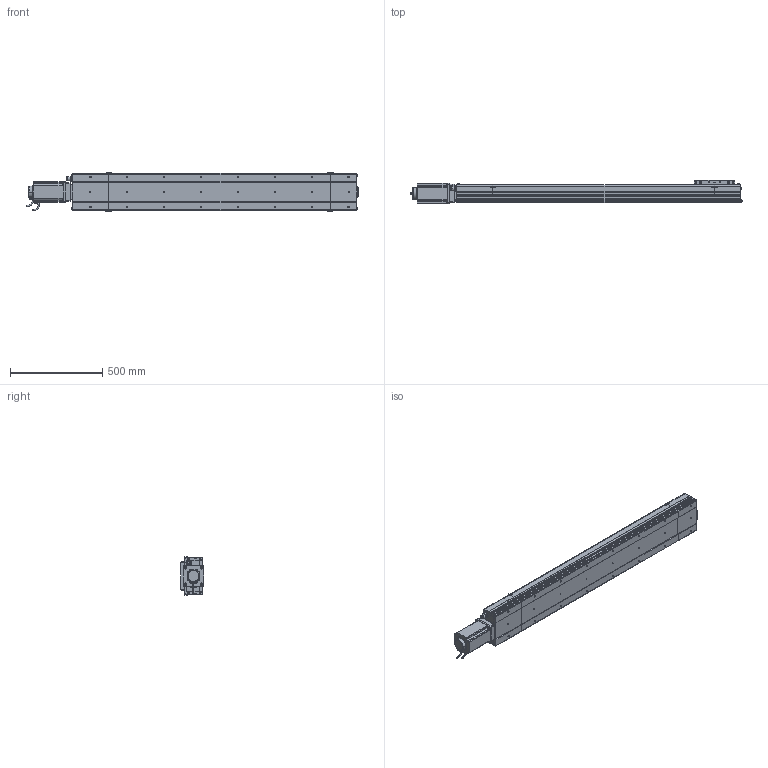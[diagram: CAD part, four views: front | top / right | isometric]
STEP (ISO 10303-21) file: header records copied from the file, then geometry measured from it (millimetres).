
FILE_DESCRIPTION (( 'STEP AP214' ), '1' );
FILE_NAME ('D20 CSH MD S1200.STEP', '2010-06-30T08:19:29', ( 'Conseil Régional Haute-Normandie' ), ( 'Conseil Régional Haute-Normandie' ), 'SwSTEP 2.0', 'SolidWorks 2010', '' );
FILE_SCHEMA (( 'AUTOMOTIVE_DESIGN' ));
Length unit declared in the file: millimetre
Products named in the file (28): Chariot D20_Default; Conecteur_Default; clavette; Support Chariot D20_Default; Glissiere_Default; vis M5 L15_Default; Corp Tail D20_Default; Tail D20_Default; D20 CSH MD S1200; Plaque De Serrage D20_Default; Plaque de Bout Tail D20_Default; Couvercle_Default; Couvercle S1200_Default; Corp S1200_Default; Corp D20 S1200_Default; Couvercle Head_Default; Corp Head D20_Default; Head D20 MD_Default; Plaque racord D20_Default; Plaque De Serrage Head D20_Default; Plaque de Bout Head D20_Default; avant 110BLDC170A-630x; Moteur motionking 110BLDC170A-640x; vis M8 L15_Default; Conecteur2_Default; codeur 110BLDC170A-630x; corps 110BLDC170A-630x
Assembly tree (53 placements, depth 4):
  D20 CSH MD S1200
    Corp D20 S1200_Default
      Corp S1200_Default
      Couvercle S1200_Default
    Chariot D20_Default
      vis M5 L15_Default  x8
      Glissiere_Default
      Support Chariot D20_Default
      Chariot D20_Default
    Head D20 MD_Default
      Plaque De Serrage Head D20_Default
      vis M8 L15_Default  x4
      Plaque racord D20_Default
      vis M5 L15_Default  x10
      Plaque de Bout Head D20_Default
      Corp Head D20_Default
      Couvercle Head_Default
      Moteur motionking 110BLDC170A-640x
        corps 110BLDC170A-630x
        avant 110BLDC170A-630x
        clavette
        Conecteur_Default
        codeur 110BLDC170A-630x
        Conecteur2_Default
    Tail D20_Default
      Corp Tail D20_Default
      Plaque De Serrage D20_Default
      Plaque de Bout Tail D20_Default
      vis M5 L15_Default  x6
      Couvercle_Default
Bounding box: 1799 x 125.5 x 206 mm (x, y, z)
Volume: 12759316.1 mm3; surface area: 2271383 mm2
Topology: 90 solids, 90 shells, 3421 faces, 8609 edges, 5625 vertices
Faces by surface type: plane 1944, bspline 758, cylinder 581, torus 79, cone 59
Entity records: 153099 total; most frequent: CARTESIAN_POINT 79376, ORIENTED_EDGE 14614, DIRECTION 10931, EDGE_CURVE 7307, VERTEX_POINT 4845, VECTOR 4787, LINE 4787, EDGE_LOOP 3108
